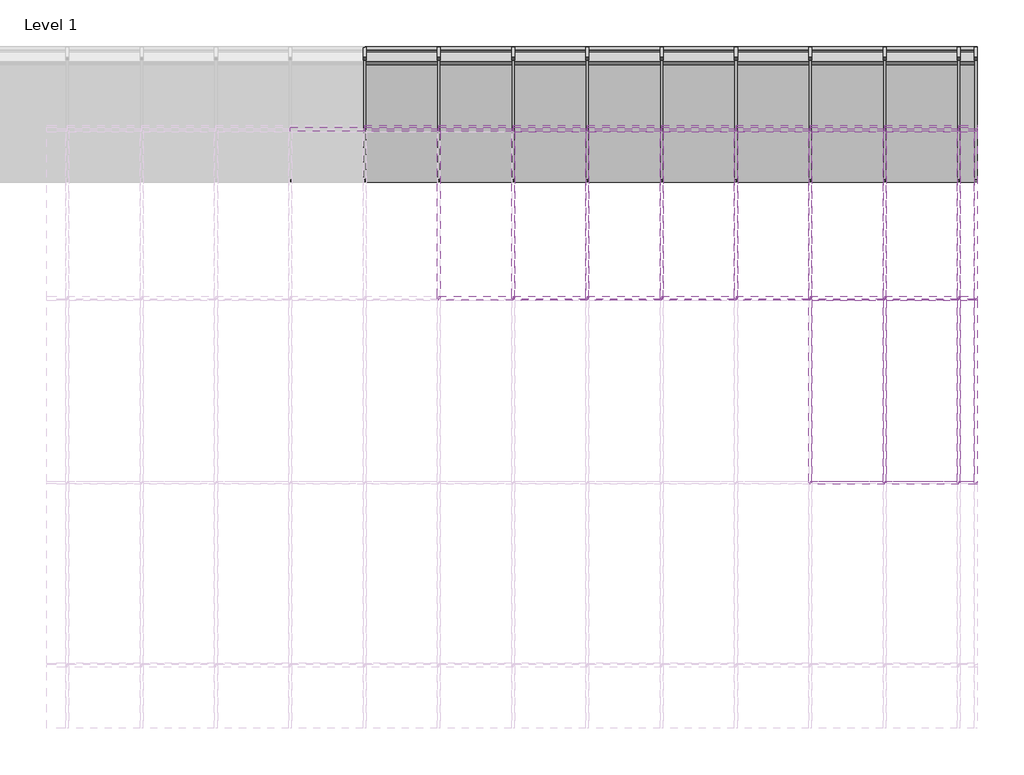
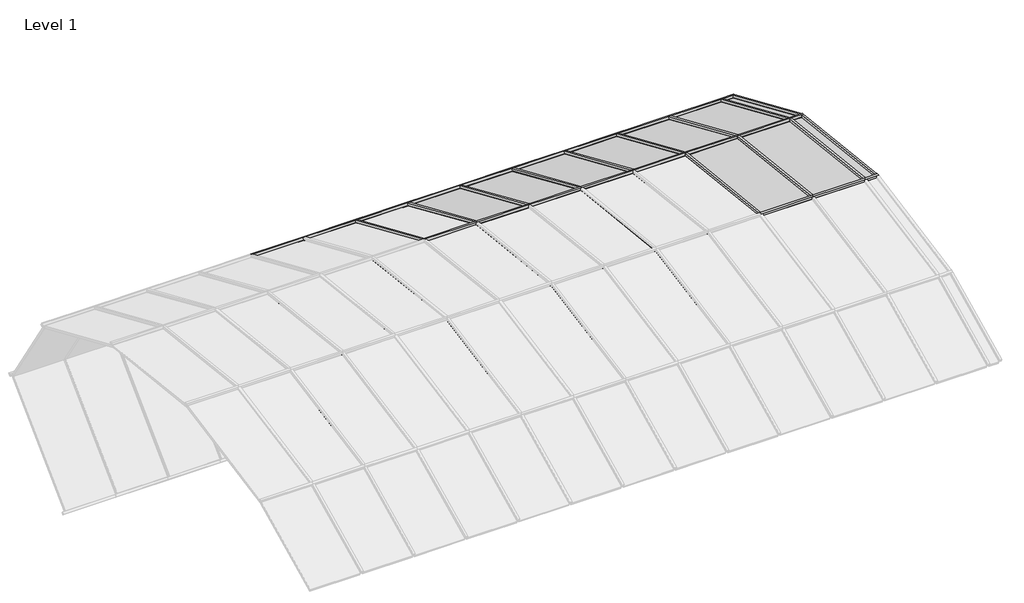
# One storey, part 22 of 23: 82 members, 28 plates.
"""IFC4 building model written with IfcOpenShell, lengths in millimetres."""

from ifc_helpers import new_model, si_unit, origin, place, context, project, spatial, transform, mapped, element, save
from components import member_68981e21, member_3e1f1dd8, member_fea202f7, member_e752087b, member_67cfadff, member_309acb9e, member_04f0a375, member_1d69e541, member_42213d33, member_0f8f75f6, member_88d46f17, member_1ddaab60, system_panel_glazed_51f493bd, system_panel_glazed_6e806f8e, system_panel_glazed_8cafdc8f, system_panel_glazed_3c61d676, system_panel_glazed_3957fabc, system_panel_glazed_e36701dd

model = new_model("IFC4")

# Units and contexts
model_context = context("Model", 3, world=origin())
ifc_project = project(units=[si_unit("LENGTHUNIT", "METRE", prefix="MILLI")], contexts=[model_context])

# Site, building, storey
site = spatial("IfcSite", under=ifc_project)
building = spatial("IfcBuilding", under=site)
storey = spatial("IfcBuildingStorey", under=building, Name="Level 1", Elevation=0.0)

# Members
placement = place(None, origin())
member_shape = member_68981e21(model_context)
element("IfcMember", 1, ObjectType="Rectangular Mullion : 1\" Square", at=placement, inside=storey, context=model_context, shape_type="MappedRepresentation", body=[
    mapped(member_shape, transform((450.2500186, 7543.2525753, 2085.6089632), x_axis=(0.0, 0.9167487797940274, -0.3994642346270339), y_axis=(0.0, 0.3994642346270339, 0.9167487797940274), z_axis=(1.0, 0.0, 0.0))),
])
element("IfcMember", 2, ObjectType="Rectangular Mullion : 1\" Square", at=placement, inside=storey, context=model_context, shape_type="MappedRepresentation", body=[
    mapped(member_shape, transform((1059.8500186, 7543.2525753, 2085.6089632), x_axis=(0.0, 0.9167487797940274, -0.3994642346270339), y_axis=(0.0, 0.3994642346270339, 0.9167487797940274), z_axis=(1.0, 0.0, 0.0))),
])
element("IfcMember", 3, ObjectType="Rectangular Mullion : 1\" Square", at=placement, inside=storey, context=model_context, shape_type="MappedRepresentation", body=[
    mapped(member_shape, transform((1669.4500186, 7543.2525753, 2085.6089632), x_axis=(0.0, 0.9167487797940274, -0.3994642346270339), y_axis=(0.0, 0.3994642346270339, 0.9167487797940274), z_axis=(1.0, 0.0, 0.0))),
])
element("IfcMember", 4, ObjectType="Rectangular Mullion : 1\" Square", at=placement, inside=storey, context=model_context, shape_type="MappedRepresentation", body=[
    mapped(member_shape, transform((2279.0500186, 7543.2525753, 2085.6089632), x_axis=(0.0, 0.9167487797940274, -0.3994642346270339), y_axis=(0.0, 0.3994642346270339, 0.9167487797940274), z_axis=(1.0, 0.0, 0.0))),
])
element("IfcMember", 5, ObjectType="Rectangular Mullion : 1\" Square", at=placement, inside=storey, context=model_context, shape_type="MappedRepresentation", body=[
    mapped(member_shape, transform((2888.6500186, 7543.2525753, 2085.6089632), x_axis=(0.0, 0.9167487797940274, -0.3994642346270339), y_axis=(0.0, 0.3994642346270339, 0.9167487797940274), z_axis=(1.0, 0.0, 0.0))),
])
element("IfcMember", 6, ObjectType="Rectangular Mullion : 1\" Square", at=placement, inside=storey, context=model_context, shape_type="MappedRepresentation", body=[
    mapped(member_shape, transform((3498.2500186, 7543.2525753, 2085.6089632), x_axis=(0.0, 0.9167487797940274, -0.3994642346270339), y_axis=(0.0, 0.3994642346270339, 0.9167487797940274), z_axis=(1.0, 0.0, 0.0))),
])
element("IfcMember", 7, ObjectType="Rectangular Mullion : 1\" Square", at=placement, inside=storey, context=model_context, shape_type="MappedRepresentation", body=[
    mapped(member_shape, transform((4107.8500186, 7543.2525753, 2085.6089632), x_axis=(0.0, 0.9167487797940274, -0.3994642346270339), y_axis=(0.0, 0.3994642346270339, 0.9167487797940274), z_axis=(1.0, 0.0, 0.0))),
])
element("IfcMember", 8, ObjectType="Rectangular Mullion : 1\" Square", at=placement, inside=storey, context=model_context, shape_type="MappedRepresentation", body=[
    mapped(member_shape, transform((4717.4500186, 7543.2525753, 2085.6089632), x_axis=(0.0, 0.9167487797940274, -0.3994642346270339), y_axis=(0.0, 0.3994642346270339, 0.9167487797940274), z_axis=(1.0, 0.0, 0.0))),
])
element("IfcMember", 9, ObjectType="Rectangular Mullion : 1\" Square", at=placement, inside=storey, context=model_context, shape_type="MappedRepresentation", body=[
    mapped(member_shape, transform((5327.0500186, 7543.2525753, 2085.6089632), x_axis=(0.0, 0.9167487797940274, -0.3994642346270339), y_axis=(0.0, 0.3994642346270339, 0.9167487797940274), z_axis=(1.0, 0.0, 0.0))),
])
element("IfcMember", 10, ObjectType="Rectangular Mullion : 1\" Square", at=placement, inside=storey, context=model_context, shape_type="MappedRepresentation", body=[
    mapped(member_shape, transform((450.2500186, 7111.8807303, 0.0), x_axis=(0.0, -0.7134126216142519, -0.7007441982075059), y_axis=(0.0, 0.7007441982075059, -0.7134126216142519), z_axis=(1.0, 0.0, 0.0))),
])
element("IfcMember", 11, ObjectType="Rectangular Mullion : 1\" Square", at=placement, inside=storey, context=model_context, shape_type="MappedRepresentation", body=[
    mapped(member_shape, transform((1059.8500186, 7111.8807303, 0.0), x_axis=(0.0, -0.7134126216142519, -0.7007441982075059), y_axis=(0.0, 0.7007441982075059, -0.7134126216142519), z_axis=(1.0, 0.0, 0.0))),
])
element("IfcMember", 12, ObjectType="Rectangular Mullion : 1\" Square", at=placement, inside=storey, context=model_context, shape_type="MappedRepresentation", body=[
    mapped(member_shape, transform((1669.4500186, 7111.8807303, 0.0), x_axis=(0.0, -0.7134126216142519, -0.7007441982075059), y_axis=(0.0, 0.7007441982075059, -0.7134126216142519), z_axis=(1.0, 0.0, 0.0))),
])
element("IfcMember", 13, ObjectType="Rectangular Mullion : 1\" Square", at=placement, inside=storey, context=model_context, shape_type="MappedRepresentation", body=[
    mapped(member_shape, transform((2279.0500186, 7111.8807303, 0.0), x_axis=(0.0, -0.7134126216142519, -0.7007441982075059), y_axis=(0.0, 0.7007441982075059, -0.7134126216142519), z_axis=(1.0, 0.0, 0.0))),
])
element("IfcMember", 14, ObjectType="Rectangular Mullion : 1\" Square", at=placement, inside=storey, context=model_context, shape_type="MappedRepresentation", body=[
    mapped(member_shape, transform((2888.6500186, 7111.8807303, 0.0), x_axis=(0.0, -0.7134126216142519, -0.7007441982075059), y_axis=(0.0, 0.7007441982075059, -0.7134126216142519), z_axis=(1.0, 0.0, 0.0))),
])
element("IfcMember", 15, ObjectType="Rectangular Mullion : 1\" Square", at=placement, inside=storey, context=model_context, shape_type="MappedRepresentation", body=[
    mapped(member_shape, transform((3498.2500186, 7111.8807303, 0.0), x_axis=(0.0, -0.7134126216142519, -0.7007441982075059), y_axis=(0.0, 0.7007441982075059, -0.7134126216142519), z_axis=(1.0, 0.0, 0.0))),
])
element("IfcMember", 16, ObjectType="Rectangular Mullion : 1\" Square", at=placement, inside=storey, context=model_context, shape_type="MappedRepresentation", body=[
    mapped(member_shape, transform((4107.8500186, 7111.8807303, 0.0), x_axis=(0.0, -0.7134126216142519, -0.7007441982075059), y_axis=(0.0, 0.7007441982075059, -0.7134126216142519), z_axis=(1.0, 0.0, 0.0))),
])
element("IfcMember", 17, ObjectType="Rectangular Mullion : 1\" Square", at=placement, inside=storey, context=model_context, shape_type="MappedRepresentation", body=[
    mapped(member_shape, transform((4717.4500186, 7111.8807303, 0.0), x_axis=(0.0, -0.7134126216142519, -0.7007441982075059), y_axis=(0.0, 0.7007441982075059, -0.7134126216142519), z_axis=(1.0, 0.0, 0.0))),
])
element("IfcMember", 18, ObjectType="Rectangular Mullion : 1\" Square", at=placement, inside=storey, context=model_context, shape_type="MappedRepresentation", body=[
    mapped(member_shape, transform((5327.0500186, 7111.8807303, 0.0), x_axis=(0.0, -0.7134126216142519, -0.7007441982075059), y_axis=(0.0, 0.7007441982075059, -0.7134126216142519), z_axis=(1.0, 0.0, 0.0))),
])
member_2_shape = member_3e1f1dd8(model_context)
element("IfcMember", 19, ObjectType="Rectangular Mullion : 1\" Square", at=placement, inside=storey, context=model_context, shape_type="MappedRepresentation", body=[
    mapped(member_2_shape, transform((4107.8500186, 4631.6132499, 2864.1651971), x_axis=(0.0, -0.9992773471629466, -0.038010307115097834), y_axis=(0.0, -0.038010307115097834, 0.9992773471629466), z_axis=(-1.0, 0.0, 0.0))),
])
element("IfcMember", 20, ObjectType="Rectangular Mullion : 1\" Square", at=placement, inside=storey, context=model_context, shape_type="MappedRepresentation", body=[
    mapped(member_2_shape, transform((4717.4500186, 4631.6132499, 2864.1651971), x_axis=(0.0, -0.9992773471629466, -0.038010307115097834), y_axis=(0.0, -0.038010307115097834, 0.9992773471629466), z_axis=(-1.0, 0.0, 0.0))),
])
member_3_shape = member_fea202f7(model_context)
element("IfcMember", 21, ObjectType="Rectangular Mullion : 1\" Square", at=placement, inside=storey, context=model_context, shape_type="MappedRepresentation", body=[
    mapped(member_3_shape, transform((5327.0500186, 4631.6132499, 2864.1651971), x_axis=(0.0, -0.9992773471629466, -0.038010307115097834), y_axis=(0.0, -0.038010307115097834, 0.9992773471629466), z_axis=(-1.0, 0.0, 0.0))),
])
element("IfcMember", 22, ObjectType="Rectangular Mullion : 1\" Square", at=placement, inside=storey, context=model_context, shape_type="MappedRepresentation", body=[
    mapped(member_shape, transform((450.2500186, 7543.2525753, 2085.6089632), x_axis=(0.0, -0.5417212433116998, 0.8405582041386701), y_axis=(0.0, 0.8405582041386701, 0.5417212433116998), z_axis=(-1.0, 0.0, 0.0))),
])
element("IfcMember", 23, ObjectType="Rectangular Mullion : 1\" Square", at=placement, inside=storey, context=model_context, shape_type="MappedRepresentation", body=[
    mapped(member_shape, transform((1059.8500186, 7543.2525753, 2085.6089632), x_axis=(0.0, -0.5417212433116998, 0.8405582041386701), y_axis=(0.0, 0.8405582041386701, 0.5417212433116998), z_axis=(-1.0, 0.0, 0.0))),
])
element("IfcMember", 24, ObjectType="Rectangular Mullion : 1\" Square", at=placement, inside=storey, context=model_context, shape_type="MappedRepresentation", body=[
    mapped(member_shape, transform((1669.4500186, 7543.2525753, 2085.6089632), x_axis=(0.0, -0.5417212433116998, 0.8405582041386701), y_axis=(0.0, 0.8405582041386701, 0.5417212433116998), z_axis=(-1.0, 0.0, 0.0))),
])
element("IfcMember", 25, ObjectType="Rectangular Mullion : 1\" Square", at=placement, inside=storey, context=model_context, shape_type="MappedRepresentation", body=[
    mapped(member_shape, transform((2279.0500186, 7543.2525753, 2085.6089632), x_axis=(0.0, -0.5417212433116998, 0.8405582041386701), y_axis=(0.0, 0.8405582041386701, 0.5417212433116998), z_axis=(-1.0, 0.0, 0.0))),
])
element("IfcMember", 26, ObjectType="Rectangular Mullion : 1\" Square", at=placement, inside=storey, context=model_context, shape_type="MappedRepresentation", body=[
    mapped(member_shape, transform((2888.6500186, 7543.2525753, 2085.6089632), x_axis=(0.0, -0.5417212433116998, 0.8405582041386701), y_axis=(0.0, 0.8405582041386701, 0.5417212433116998), z_axis=(-1.0, 0.0, 0.0))),
])
element("IfcMember", 27, ObjectType="Rectangular Mullion : 1\" Square", at=placement, inside=storey, context=model_context, shape_type="MappedRepresentation", body=[
    mapped(member_shape, transform((3498.2500186, 7543.2525753, 2085.6089632), x_axis=(0.0, -0.5417212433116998, 0.8405582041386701), y_axis=(0.0, 0.8405582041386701, 0.5417212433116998), z_axis=(-1.0, 0.0, 0.0))),
])
element("IfcMember", 28, ObjectType="Rectangular Mullion : 1\" Square", at=placement, inside=storey, context=model_context, shape_type="MappedRepresentation", body=[
    mapped(member_shape, transform((4107.8500186, 7543.2525753, 2085.6089632), x_axis=(0.0, -0.5417212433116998, 0.8405582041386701), y_axis=(0.0, 0.8405582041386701, 0.5417212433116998), z_axis=(-1.0, 0.0, 0.0))),
])
element("IfcMember", 29, ObjectType="Rectangular Mullion : 1\" Square", at=placement, inside=storey, context=model_context, shape_type="MappedRepresentation", body=[
    mapped(member_shape, transform((4717.4500186, 7543.2525753, 2085.6089632), x_axis=(0.0, -0.5417212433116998, 0.8405582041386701), y_axis=(0.0, 0.8405582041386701, 0.5417212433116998), z_axis=(-1.0, 0.0, 0.0))),
])
element("IfcMember", 30, ObjectType="Rectangular Mullion : 1\" Square", at=placement, inside=storey, context=model_context, shape_type="MappedRepresentation", body=[
    mapped(member_2_shape, transform((1059.8500186, 6146.1274349, 2694.3924567), x_axis=(0.0, -0.9660596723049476, 0.258319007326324), y_axis=(0.0, 0.258319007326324, 0.9660596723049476), z_axis=(-1.0, 0.0, 0.0))),
])
element("IfcMember", 31, ObjectType="Rectangular Mullion : 1\" Square", at=placement, inside=storey, context=model_context, shape_type="MappedRepresentation", body=[
    mapped(member_2_shape, transform((1669.4500186, 6146.1274349, 2694.3924567), x_axis=(0.0, -0.9660596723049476, 0.258319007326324), y_axis=(0.0, 0.258319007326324, 0.9660596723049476), z_axis=(-1.0, 0.0, 0.0))),
])
element("IfcMember", 32, ObjectType="Rectangular Mullion : 1\" Square", at=placement, inside=storey, context=model_context, shape_type="MappedRepresentation", body=[
    mapped(member_2_shape, transform((2279.0500186, 6146.1274349, 2694.3924567), x_axis=(0.0, -0.9660596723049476, 0.258319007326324), y_axis=(0.0, 0.258319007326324, 0.9660596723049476), z_axis=(-1.0, 0.0, 0.0))),
])
element("IfcMember", 33, ObjectType="Rectangular Mullion : 1\" Square", at=placement, inside=storey, context=model_context, shape_type="MappedRepresentation", body=[
    mapped(member_2_shape, transform((2888.6500186, 6146.1274349, 2694.3924567), x_axis=(0.0, -0.9660596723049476, 0.258319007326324), y_axis=(0.0, 0.258319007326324, 0.9660596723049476), z_axis=(-1.0, 0.0, 0.0))),
])
element("IfcMember", 34, ObjectType="Rectangular Mullion : 1\" Square", at=placement, inside=storey, context=model_context, shape_type="MappedRepresentation", body=[
    mapped(member_2_shape, transform((3498.2500186, 6146.1274349, 2694.3924567), x_axis=(0.0, -0.9660596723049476, 0.258319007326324), y_axis=(0.0, 0.258319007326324, 0.9660596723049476), z_axis=(-1.0, 0.0, 0.0))),
])
element("IfcMember", 35, ObjectType="Rectangular Mullion : 1\" Square", at=placement, inside=storey, context=model_context, shape_type="MappedRepresentation", body=[
    mapped(member_2_shape, transform((4107.8500186, 6146.1274349, 2694.3924567), x_axis=(0.0, -0.9660596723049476, 0.258319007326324), y_axis=(0.0, 0.258319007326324, 0.9660596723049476), z_axis=(-1.0, 0.0, 0.0))),
])
element("IfcMember", 36, ObjectType="Rectangular Mullion : 1\" Square", at=placement, inside=storey, context=model_context, shape_type="MappedRepresentation", body=[
    mapped(member_2_shape, transform((4717.4500186, 6146.1274349, 2694.3924567), x_axis=(0.0, -0.9660596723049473, 0.25831900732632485), y_axis=(0.0, 0.25831900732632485, 0.9660596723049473), z_axis=(-1.0, 0.0, 0.0))),
])
element("IfcMember", 37, ObjectType="Rectangular Mullion : 1\" Square", at=placement, inside=storey, context=model_context, shape_type="MappedRepresentation", body=[
    mapped(member_2_shape, transform((450.2500186, 8199.1215657, 1067.9341581), x_axis=(0.0, 0.017915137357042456, 0.9998395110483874), y_axis=(0.0, 0.9998395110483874, -0.017915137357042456), z_axis=(-1.0, 0.0, 0.0))),
])
element("IfcMember", 38, ObjectType="Rectangular Mullion : 1\" Square", at=placement, inside=storey, context=model_context, shape_type="MappedRepresentation", body=[
    mapped(member_2_shape, transform((1059.8500186, 8199.1215657, 1067.9341581), x_axis=(0.0, 0.017915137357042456, 0.9998395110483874), y_axis=(0.0, 0.9998395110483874, -0.017915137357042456), z_axis=(-1.0, 0.0, 0.0))),
])
element("IfcMember", 39, ObjectType="Rectangular Mullion : 1\" Square", at=placement, inside=storey, context=model_context, shape_type="MappedRepresentation", body=[
    mapped(member_2_shape, transform((1669.4500186, 8199.1215657, 1067.9341581), x_axis=(0.0, 0.017915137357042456, 0.9998395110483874), y_axis=(0.0, 0.9998395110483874, -0.017915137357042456), z_axis=(-1.0, 0.0, 0.0))),
])
element("IfcMember", 40, ObjectType="Rectangular Mullion : 1\" Square", at=placement, inside=storey, context=model_context, shape_type="MappedRepresentation", body=[
    mapped(member_2_shape, transform((2279.0500186, 8199.1215657, 1067.9341581), x_axis=(0.0, 0.017915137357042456, 0.9998395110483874), y_axis=(0.0, 0.9998395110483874, -0.017915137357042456), z_axis=(-1.0, 0.0, 0.0))),
])
element("IfcMember", 41, ObjectType="Rectangular Mullion : 1\" Square", at=placement, inside=storey, context=model_context, shape_type="MappedRepresentation", body=[
    mapped(member_2_shape, transform((2888.6500186, 8199.1215657, 1067.9341581), x_axis=(0.0, 0.017915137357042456, 0.9998395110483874), y_axis=(0.0, 0.9998395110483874, -0.017915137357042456), z_axis=(-1.0, 0.0, 0.0))),
])
element("IfcMember", 42, ObjectType="Rectangular Mullion : 1\" Square", at=placement, inside=storey, context=model_context, shape_type="MappedRepresentation", body=[
    mapped(member_2_shape, transform((3498.2500186, 8199.1215657, 1067.9341581), x_axis=(0.0, 0.017915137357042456, 0.9998395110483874), y_axis=(0.0, 0.9998395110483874, -0.017915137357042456), z_axis=(-1.0, 0.0, 0.0))),
])
element("IfcMember", 43, ObjectType="Rectangular Mullion : 1\" Square", at=placement, inside=storey, context=model_context, shape_type="MappedRepresentation", body=[
    mapped(member_2_shape, transform((4107.8500186, 8199.1215657, 1067.9341581), x_axis=(0.0, 0.0179151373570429, 0.9998395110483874), y_axis=(0.0, 0.9998395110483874, -0.0179151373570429), z_axis=(-1.0, 0.0, 0.0))),
])
element("IfcMember", 44, ObjectType="Rectangular Mullion : 1\" Square", at=placement, inside=storey, context=model_context, shape_type="MappedRepresentation", body=[
    mapped(member_2_shape, transform((4717.4500186, 8199.1215657, 1067.9341581), x_axis=(0.0, 0.017915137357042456, 0.9998395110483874), y_axis=(0.0, 0.9998395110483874, -0.017915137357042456), z_axis=(-1.0, 0.0, 0.0))),
])
element("IfcMember", 45, ObjectType="Rectangular Mullion : 1\" Square", at=placement, inside=storey, context=model_context, shape_type="MappedRepresentation", body=[
    mapped(member_3_shape, transform((5327.0500186, 6146.1274349, 2694.3924567), x_axis=(0.0, -0.9660596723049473, 0.25831900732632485), y_axis=(0.0, 0.25831900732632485, 0.9660596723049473), z_axis=(-1.0, 0.0, 0.0))),
])
element("IfcMember", 46, ObjectType="Rectangular Mullion : 1\" Square", at=placement, inside=storey, context=model_context, shape_type="MappedRepresentation", body=[
    mapped(member_3_shape, transform((5327.0500186, 8199.1215657, 1067.9341581), x_axis=(0.0, 0.017915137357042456, 0.9998395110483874), y_axis=(0.0, 0.9998395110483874, -0.017915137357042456), z_axis=(-1.0, 0.0, 0.0))),
])
member_4_shape = member_e752087b(model_context)
element("IfcMember", 47, ObjectType="Rectangular Mullion : 1\" Square", at=placement, inside=storey, context=model_context, shape_type="MappedRepresentation", body=[
    mapped(member_4_shape, transform((5479.4500186, 7543.2525753, 2085.6089632), x_axis=(0.0, 0.9167487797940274, -0.3994642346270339), y_axis=(0.0, 0.3994642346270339, 0.9167487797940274), z_axis=(1.0, 0.0, 0.0))),
])
element("IfcMember", 48, ObjectType="Rectangular Mullion : 1\" Square", at=placement, inside=storey, context=model_context, shape_type="MappedRepresentation", body=[
    mapped(member_4_shape, transform((5479.4500186, 7111.8807303, 0.0), x_axis=(0.0, -0.7134126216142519, -0.7007441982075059), y_axis=(0.0, 0.7007441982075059, -0.7134126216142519), z_axis=(1.0, 0.0, 0.0))),
])
element("IfcMember", 49, ObjectType="Rectangular Mullion : 1\" Square", at=placement, inside=storey, context=model_context, shape_type="MappedRepresentation", body=[
    mapped(member_4_shape, transform((5327.0500186, 7543.2525753, 2085.6089632), x_axis=(0.0, -0.5417212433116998, 0.8405582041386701), y_axis=(0.0, 0.8405582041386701, 0.5417212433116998), z_axis=(-1.0, 0.0, 0.0))),
])
member_5_shape = member_67cfadff(model_context)
element("IfcMember", 50, ObjectType="Rectangular Mullion : 1\" Square", at=placement, inside=storey, context=model_context, shape_type="MappedRepresentation", body=[
    mapped(member_5_shape, transform((1059.8500186, 6157.7701444, 2689.3192609), x_axis=(1.0, 0.0, 0.0), y_axis=(0.0, 0.39946423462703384, 0.9167487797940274), z_axis=(0.0, -0.9167487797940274, 0.39946423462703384))),
])
element("IfcMember", 51, ObjectType="Rectangular Mullion : 1\" Square", at=placement, inside=storey, context=model_context, shape_type="MappedRepresentation", body=[
    mapped(member_5_shape, transform((1669.4500186, 6157.7701444, 2689.3192609), x_axis=(1.0, 0.0, 0.0), y_axis=(0.0, 0.39946423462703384, 0.9167487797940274), z_axis=(0.0, -0.9167487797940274, 0.39946423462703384))),
])
element("IfcMember", 52, ObjectType="Rectangular Mullion : 1\" Square", at=placement, inside=storey, context=model_context, shape_type="MappedRepresentation", body=[
    mapped(member_5_shape, transform((2279.0500186, 6157.7701444, 2689.3192609), x_axis=(1.0, 0.0, 0.0), y_axis=(0.0, 0.39946423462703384, 0.9167487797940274), z_axis=(0.0, -0.9167487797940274, 0.39946423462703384))),
])
element("IfcMember", 53, ObjectType="Rectangular Mullion : 1\" Square", at=placement, inside=storey, context=model_context, shape_type="MappedRepresentation", body=[
    mapped(member_5_shape, transform((2888.6500186, 6157.7701444, 2689.3192609), x_axis=(1.0, 0.0, 0.0), y_axis=(0.0, 0.39946423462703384, 0.9167487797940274), z_axis=(0.0, -0.9167487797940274, 0.39946423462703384))),
])
element("IfcMember", 54, ObjectType="Rectangular Mullion : 1\" Square", at=placement, inside=storey, context=model_context, shape_type="MappedRepresentation", body=[
    mapped(member_5_shape, transform((3498.2500186, 6157.7701444, 2689.3192609), x_axis=(1.0, 0.0, 0.0), y_axis=(0.0, 0.39946423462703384, 0.9167487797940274), z_axis=(0.0, -0.9167487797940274, 0.39946423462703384))),
])
element("IfcMember", 55, ObjectType="Rectangular Mullion : 1\" Square", at=placement, inside=storey, context=model_context, shape_type="MappedRepresentation", body=[
    mapped(member_5_shape, transform((4107.8500186, 6157.7701444, 2689.3192609), x_axis=(1.0, 0.0, 0.0), y_axis=(0.0, 0.39946423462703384, 0.9167487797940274), z_axis=(0.0, -0.9167487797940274, 0.39946423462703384))),
])
element("IfcMember", 56, ObjectType="Rectangular Mullion : 1\" Square", at=placement, inside=storey, context=model_context, shape_type="MappedRepresentation", body=[
    mapped(member_5_shape, transform((4717.4500186, 6157.7701444, 2689.3192609), x_axis=(1.0, 0.0, 0.0), y_axis=(0.0, 0.39946423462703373, 0.9167487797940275), z_axis=(0.0, -0.9167487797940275, 0.39946423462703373))),
])
member_6_shape = member_309acb9e(model_context)
element("IfcMember", 57, ObjectType="Rectangular Mullion : 1\" Square", at=placement, inside=storey, context=model_context, shape_type="MappedRepresentation", body=[
    mapped(member_6_shape, transform((4107.8500186, 4644.2342014, 2862.7504243), x_axis=(1.0, 0.0, 0.0), y_axis=(0.0, 0.11139943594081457, 0.9937757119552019), z_axis=(0.0, -0.9937757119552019, 0.11139943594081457))),
])
element("IfcMember", 58, ObjectType="Rectangular Mullion : 1\" Square", at=placement, inside=storey, context=model_context, shape_type="MappedRepresentation", body=[
    mapped(member_6_shape, transform((4717.4500186, 4644.2342014, 2862.7504243), x_axis=(1.0, 0.0, 0.0), y_axis=(0.0, 0.1113994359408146, 0.9937757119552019), z_axis=(0.0, -0.9937757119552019, 0.1113994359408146))),
])
element("IfcMember", 59, ObjectType="Rectangular Mullion : 1\" Square", at=placement, inside=storey, context=model_context, shape_type="MappedRepresentation", body=[
    mapped(member_5_shape, transform((5327.0500186, 6157.7701444, 2689.3192609), x_axis=(1.0, 0.0, 0.0), y_axis=(0.0, 0.39946423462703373, 0.9167487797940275), z_axis=(0.0, -0.9167487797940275, 0.39946423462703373))),
])
element("IfcMember", 60, ObjectType="Rectangular Mullion : 1\" Square", at=placement, inside=storey, context=model_context, shape_type="MappedRepresentation", body=[
    mapped(member_6_shape, transform((5327.0500186, 4644.2342014, 2862.7504243), x_axis=(1.0, 0.0, 0.0), y_axis=(0.0, 0.1113994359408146, 0.9937757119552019), z_axis=(0.0, -0.9937757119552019, 0.1113994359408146))),
])
member_7_shape = member_04f0a375(model_context)
element("IfcMember", 61, ObjectType="Rectangular Mullion : 1\" Square", at=placement, inside=storey, context=model_context, shape_type="MappedRepresentation", body=[
    mapped(member_7_shape, transform((5479.4500186, 6157.7701444, 2689.3192609), x_axis=(1.0, 0.0, 0.0), y_axis=(0.0, 0.39946423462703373, 0.9167487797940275), z_axis=(0.0, -0.9167487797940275, 0.39946423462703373))),
])
member_8_shape = member_1d69e541(model_context)
element("IfcMember", 62, ObjectType="Rectangular Mullion : 1\" Square", at=placement, inside=storey, context=model_context, shape_type="MappedRepresentation", body=[
    mapped(member_8_shape, transform((5479.4500186, 4644.2342014, 2862.7504243), x_axis=(1.0, 0.0, 0.0), y_axis=(0.0, 0.1113994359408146, 0.9937757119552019), z_axis=(0.0, -0.9937757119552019, 0.1113994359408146))),
])
member_9_shape = member_42213d33(model_context)
element("IfcMember", 63, ObjectType="Rectangular Mullion : 1\" Square", at=placement, inside=storey, context=model_context, shape_type="MappedRepresentation", body=[
    mapped(member_9_shape, transform((3498.2500186, 8190.0612254, 1059.0347068), x_axis=(1.0, 0.0, 0.0), y_axis=(0.0, 0.7007441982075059, -0.713412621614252), z_axis=(0.0, 0.7134126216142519, 0.7007441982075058))),
])
element("IfcMember", 64, ObjectType="Rectangular Mullion : 1\" Square", at=placement, inside=storey, context=model_context, shape_type="MappedRepresentation", body=[
    mapped(member_9_shape, transform((4107.8500186, 8190.0612254, 1059.0347068), x_axis=(1.0, 0.0, 0.0), y_axis=(0.0, 0.700744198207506, -0.7134126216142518), z_axis=(0.0, 0.7134126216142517, 0.7007441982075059))),
])
element("IfcMember", 65, ObjectType="Rectangular Mullion : 1\" Square", at=placement, inside=storey, context=model_context, shape_type="MappedRepresentation", body=[
    mapped(member_9_shape, transform((4717.4500186, 8190.0612254, 1059.0347068), x_axis=(1.0, 0.0, 0.0), y_axis=(0.0, 0.7007441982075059, -0.713412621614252), z_axis=(0.0, 0.7134126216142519, 0.7007441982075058))),
])
element("IfcMember", 66, ObjectType="Rectangular Mullion : 1\" Square", at=placement, inside=storey, context=model_context, shape_type="MappedRepresentation", body=[
    mapped(member_9_shape, transform((450.2500186, 8190.0612254, 1059.0347068), x_axis=(1.0, 0.0, 0.0), y_axis=(0.0, 0.7007441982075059, -0.7134126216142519), z_axis=(0.0, 0.7134126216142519, 0.7007441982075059))),
])
element("IfcMember", 67, ObjectType="Rectangular Mullion : 1\" Square", at=placement, inside=storey, context=model_context, shape_type="MappedRepresentation", body=[
    mapped(member_9_shape, transform((1059.8500186, 8190.0612254, 1059.0347068), x_axis=(1.0, 0.0, 0.0), y_axis=(0.0, 0.7007441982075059, -0.7134126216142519), z_axis=(0.0, 0.7134126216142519, 0.7007441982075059))),
])
element("IfcMember", 68, ObjectType="Rectangular Mullion : 1\" Square", at=placement, inside=storey, context=model_context, shape_type="MappedRepresentation", body=[
    mapped(member_9_shape, transform((1669.4500186, 8190.0612254, 1059.0347068), x_axis=(1.0, 0.0, 0.0), y_axis=(0.0, 0.7007441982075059, -0.713412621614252), z_axis=(0.0, 0.7134126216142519, 0.7007441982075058))),
])
element("IfcMember", 69, ObjectType="Rectangular Mullion : 1\" Square", at=placement, inside=storey, context=model_context, shape_type="MappedRepresentation", body=[
    mapped(member_9_shape, transform((2279.0500186, 8190.0612254, 1059.0347068), x_axis=(1.0, 0.0, 0.0), y_axis=(0.0, 0.7007441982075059, -0.713412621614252), z_axis=(0.0, 0.7134126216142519, 0.7007441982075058))),
])
element("IfcMember", 70, ObjectType="Rectangular Mullion : 1\" Square", at=placement, inside=storey, context=model_context, shape_type="MappedRepresentation", body=[
    mapped(member_9_shape, transform((2888.6500186, 8190.0612254, 1059.0347068), x_axis=(1.0, 0.0, 0.0), y_axis=(0.0, 0.7007441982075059, -0.713412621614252), z_axis=(0.0, 0.7134126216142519, 0.7007441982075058))),
])
member_10_shape = member_0f8f75f6(model_context)
element("IfcMember", 71, ObjectType="Rectangular Mullion : 1\" Square", at=placement, inside=storey, context=model_context, shape_type="MappedRepresentation", body=[
    mapped(member_10_shape, transform((3498.2500186, 7557.0122949, 2064.2587848), x_axis=(1.0, 0.0, 0.0), y_axis=(0.0, 0.8405582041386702, 0.5417212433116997), z_axis=(0.0, -0.5417212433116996, 0.8405582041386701))),
])
element("IfcMember", 72, ObjectType="Rectangular Mullion : 1\" Square", at=placement, inside=storey, context=model_context, shape_type="MappedRepresentation", body=[
    mapped(member_10_shape, transform((4107.8500186, 7557.0122949, 2064.2587848), x_axis=(1.0, 0.0, 0.0), y_axis=(0.0, 0.8405582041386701, 0.5417212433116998), z_axis=(0.0, -0.5417212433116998, 0.8405582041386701))),
])
element("IfcMember", 73, ObjectType="Rectangular Mullion : 1\" Square", at=placement, inside=storey, context=model_context, shape_type="MappedRepresentation", body=[
    mapped(member_10_shape, transform((4717.4500186, 7557.0122949, 2064.2587848), x_axis=(1.0, 0.0, 0.0), y_axis=(0.0, 0.8405582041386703, 0.5417212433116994), z_axis=(0.0, -0.5417212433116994, 0.8405582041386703))),
])
element("IfcMember", 74, ObjectType="Rectangular Mullion : 1\" Square", at=placement, inside=storey, context=model_context, shape_type="MappedRepresentation", body=[
    mapped(member_10_shape, transform((450.2500186, 7557.0122949, 2064.2587848), x_axis=(1.0, 0.0, 0.0), y_axis=(0.0, 0.8405582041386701, 0.5417212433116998), z_axis=(0.0, -0.5417212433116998, 0.8405582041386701))),
])
element("IfcMember", 75, ObjectType="Rectangular Mullion : 1\" Square", at=placement, inside=storey, context=model_context, shape_type="MappedRepresentation", body=[
    mapped(member_10_shape, transform((1059.8500186, 7557.0122949, 2064.2587848), x_axis=(1.0, 0.0, 0.0), y_axis=(0.0, 0.8405582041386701, 0.5417212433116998), z_axis=(0.0, -0.5417212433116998, 0.8405582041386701))),
])
element("IfcMember", 76, ObjectType="Rectangular Mullion : 1\" Square", at=placement, inside=storey, context=model_context, shape_type="MappedRepresentation", body=[
    mapped(member_10_shape, transform((1669.4500186, 7557.0122949, 2064.2587848), x_axis=(1.0, 0.0, 0.0), y_axis=(0.0, 0.8405582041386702, 0.5417212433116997), z_axis=(0.0, -0.5417212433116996, 0.8405582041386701))),
])
element("IfcMember", 77, ObjectType="Rectangular Mullion : 1\" Square", at=placement, inside=storey, context=model_context, shape_type="MappedRepresentation", body=[
    mapped(member_10_shape, transform((2279.0500186, 7557.0122949, 2064.2587848), x_axis=(1.0, 0.0, 0.0), y_axis=(0.0, 0.8405582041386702, 0.5417212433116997), z_axis=(0.0, -0.5417212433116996, 0.8405582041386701))),
])
element("IfcMember", 78, ObjectType="Rectangular Mullion : 1\" Square", at=placement, inside=storey, context=model_context, shape_type="MappedRepresentation", body=[
    mapped(member_10_shape, transform((2888.6500186, 7557.0122949, 2064.2587848), x_axis=(1.0, 0.0, 0.0), y_axis=(0.0, 0.8405582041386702, 0.5417212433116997), z_axis=(0.0, -0.5417212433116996, 0.8405582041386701))),
])
element("IfcMember", 79, ObjectType="Rectangular Mullion : 1\" Square", at=placement, inside=storey, context=model_context, shape_type="MappedRepresentation", body=[
    mapped(member_9_shape, transform((5327.0500186, 8190.0612254, 1059.0347068), x_axis=(1.0, 0.0, 0.0), y_axis=(0.0, 0.7007441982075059, -0.713412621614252), z_axis=(0.0, 0.7134126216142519, 0.7007441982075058))),
])
element("IfcMember", 80, ObjectType="Rectangular Mullion : 1\" Square", at=placement, inside=storey, context=model_context, shape_type="MappedRepresentation", body=[
    mapped(member_10_shape, transform((5327.0500186, 7557.0122949, 2064.2587848), x_axis=(1.0, 0.0, 0.0), y_axis=(0.0, 0.8405582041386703, 0.5417212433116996), z_axis=(0.0, -0.5417212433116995, 0.8405582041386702))),
])
member_11_shape = member_88d46f17(model_context)
element("IfcMember", 81, ObjectType="Rectangular Mullion : 1\" Square", at=placement, inside=storey, context=model_context, shape_type="MappedRepresentation", body=[
    mapped(member_11_shape, transform((5479.4500186, 8190.0612254, 1059.0347068), x_axis=(1.0, 0.0, 0.0), y_axis=(0.0, 0.7007441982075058, -0.713412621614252), z_axis=(0.0, 0.713412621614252, 0.7007441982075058))),
])
member_12_shape = member_1ddaab60(model_context)
element("IfcMember", 82, ObjectType="Rectangular Mullion : 1\" Square", at=placement, inside=storey, context=model_context, shape_type="MappedRepresentation", body=[
    mapped(member_12_shape, transform((5479.4500186, 7557.0122949, 2064.2587848), x_axis=(1.0, 0.0, 0.0), y_axis=(0.0, 0.8405582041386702, 0.5417212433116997), z_axis=(0.0, -0.5417212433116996, 0.8405582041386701))),
])

# Plates
system_panel_glazed_shape = system_panel_glazed_51f493bd(model_context)
element("IfcPlate", 83, ObjectType="System Panel : Glazed", at=placement, inside=storey, context=model_context, shape_type="MappedRepresentation", body=[
    mapped(system_panel_glazed_shape, transform((1682.1500186, 6838.8686503, 2392.5373078), x_axis=(0.0, -0.9167487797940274, 0.3994642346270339), y_axis=(0.0, -0.3994642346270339, -0.9167487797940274), z_axis=(1.0, 0.0, 0.0))),
])
element("IfcPlate", 84, ObjectType="System Panel : Glazed", at=placement, inside=storey, context=model_context, shape_type="MappedRepresentation", body=[
    mapped(system_panel_glazed_shape, transform((2291.7500186, 6838.8686503, 2392.5373078), x_axis=(0.0, -0.9167487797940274, 0.3994642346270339), y_axis=(0.0, -0.3994642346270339, -0.9167487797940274), z_axis=(1.0, 0.0, 0.0))),
])
element("IfcPlate", 85, ObjectType="System Panel : Glazed", at=placement, inside=storey, context=model_context, shape_type="MappedRepresentation", body=[
    mapped(system_panel_glazed_shape, transform((2901.3500186, 6838.8686503, 2392.5373078), x_axis=(0.0, -0.9167487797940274, 0.3994642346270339), y_axis=(0.0, -0.3994642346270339, -0.9167487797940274), z_axis=(1.0, 0.0, 0.0))),
])
element("IfcPlate", 86, ObjectType="System Panel : Glazed", at=placement, inside=storey, context=model_context, shape_type="MappedRepresentation", body=[
    mapped(system_panel_glazed_shape, transform((3510.9500186, 6838.8686503, 2392.5373078), x_axis=(0.0, -0.9167487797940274, 0.3994642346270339), y_axis=(0.0, -0.3994642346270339, -0.9167487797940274), z_axis=(1.0, 0.0, 0.0))),
])
element("IfcPlate", 87, ObjectType="System Panel : Glazed", at=placement, inside=storey, context=model_context, shape_type="MappedRepresentation", body=[
    mapped(system_panel_glazed_shape, transform((4120.5500186, 6838.8686503, 2392.5373078), x_axis=(0.0, -0.9167487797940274, 0.3994642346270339), y_axis=(0.0, -0.3994642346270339, -0.9167487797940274), z_axis=(1.0, 0.0, 0.0))),
])
element("IfcPlate", 88, ObjectType="System Panel : Glazed", at=placement, inside=storey, context=model_context, shape_type="MappedRepresentation", body=[
    mapped(system_panel_glazed_shape, transform((4730.1500186, 6838.8686503, 2392.5373078), x_axis=(0.0, -0.9167487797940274, 0.3994642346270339), y_axis=(0.0, -0.3994642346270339, -0.9167487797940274), z_axis=(1.0, 0.0, 0.0))),
])
element("IfcPlate", 89, ObjectType="System Panel : Glazed", at=placement, inside=storey, context=model_context, shape_type="MappedRepresentation", body=[
    mapped(system_panel_glazed_shape, transform((462.9500186, 7660.0313181, 538.4168047), x_axis=(0.0, 0.7134126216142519, 0.7007441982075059), y_axis=(0.0, -0.7007441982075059, 0.7134126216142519), z_axis=(1.0, 0.0, 0.0))),
])
element("IfcPlate", 90, ObjectType="System Panel : Glazed", at=placement, inside=storey, context=model_context, shape_type="MappedRepresentation", body=[
    mapped(system_panel_glazed_shape, transform((1072.5500186, 7660.0313181, 538.4168047), x_axis=(0.0, 0.7134126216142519, 0.7007441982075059), y_axis=(0.0, -0.7007441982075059, 0.7134126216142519), z_axis=(1.0, 0.0, 0.0))),
])
element("IfcPlate", 91, ObjectType="System Panel : Glazed", at=placement, inside=storey, context=model_context, shape_type="MappedRepresentation", body=[
    mapped(system_panel_glazed_shape, transform((1682.1500186, 7660.0313181, 538.4168047), x_axis=(0.0, 0.7134126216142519, 0.7007441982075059), y_axis=(0.0, -0.7007441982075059, 0.7134126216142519), z_axis=(1.0, 0.0, 0.0))),
])
element("IfcPlate", 92, ObjectType="System Panel : Glazed", at=placement, inside=storey, context=model_context, shape_type="MappedRepresentation", body=[
    mapped(system_panel_glazed_shape, transform((2291.7500186, 7660.0313181, 538.4168047), x_axis=(0.0, 0.7134126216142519, 0.7007441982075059), y_axis=(0.0, -0.7007441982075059, 0.7134126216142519), z_axis=(1.0, 0.0, 0.0))),
])
element("IfcPlate", 93, ObjectType="System Panel : Glazed", at=placement, inside=storey, context=model_context, shape_type="MappedRepresentation", body=[
    mapped(system_panel_glazed_shape, transform((2901.3500186, 7660.0313181, 538.4168047), x_axis=(0.0, 0.7134126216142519, 0.7007441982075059), y_axis=(0.0, -0.7007441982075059, 0.7134126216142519), z_axis=(1.0, 0.0, 0.0))),
])
element("IfcPlate", 94, ObjectType="System Panel : Glazed", at=placement, inside=storey, context=model_context, shape_type="MappedRepresentation", body=[
    mapped(system_panel_glazed_shape, transform((3510.9500186, 7660.0313181, 538.4168047), x_axis=(0.0, 0.7134126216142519, 0.7007441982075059), y_axis=(0.0, -0.7007441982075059, 0.7134126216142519), z_axis=(1.0, 0.0, 0.0))),
])
element("IfcPlate", 95, ObjectType="System Panel : Glazed", at=placement, inside=storey, context=model_context, shape_type="MappedRepresentation", body=[
    mapped(system_panel_glazed_shape, transform((4120.5500186, 7660.0313181, 538.4168047), x_axis=(0.0, 0.7134126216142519, 0.7007441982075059), y_axis=(0.0, -0.7007441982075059, 0.7134126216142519), z_axis=(1.0, 0.0, 0.0))),
])
element("IfcPlate", 96, ObjectType="System Panel : Glazed", at=placement, inside=storey, context=model_context, shape_type="MappedRepresentation", body=[
    mapped(system_panel_glazed_shape, transform((4730.1500186, 7660.0313181, 538.4168047), x_axis=(0.0, 0.7134126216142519, 0.7007441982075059), y_axis=(0.0, -0.7007441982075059, 0.7134126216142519), z_axis=(1.0, 0.0, 0.0))),
])
system_panel_glazed_2_shape = system_panel_glazed_6e806f8e(model_context)
element("IfcPlate", 97, ObjectType="System Panel : Glazed", at=placement, inside=storey, context=model_context, shape_type="MappedRepresentation", body=[
    mapped(system_panel_glazed_2_shape, transform((4120.5500186, 5388.8703424, 2779.2788269), x_axis=(0.0, -0.9937757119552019, 0.11139943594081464), y_axis=(0.0, -0.11139943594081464, -0.9937757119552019), z_axis=(1.0, 0.0, 0.0))),
])
element("IfcPlate", 98, ObjectType="System Panel : Glazed", at=placement, inside=storey, context=model_context, shape_type="MappedRepresentation", body=[
    mapped(system_panel_glazed_2_shape, transform((4730.1500186, 5388.8703424, 2779.2788269), x_axis=(0.0, -0.9937757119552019, 0.11139943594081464), y_axis=(0.0, -0.11139943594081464, -0.9937757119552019), z_axis=(1.0, 0.0, 0.0))),
])
system_panel_glazed_3_shape = system_panel_glazed_8cafdc8f(model_context)
element("IfcPlate", 99, ObjectType="System Panel : Glazed", at=placement, inside=storey, context=model_context, shape_type="MappedRepresentation", body=[
    mapped(system_panel_glazed_3_shape, transform((5339.7500186, 6838.8686503, 2392.5373078), x_axis=(0.0, -0.9167487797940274, 0.3994642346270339), y_axis=(0.0, -0.3994642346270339, -0.9167487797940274), z_axis=(1.0, 0.0, 0.0))),
])
element("IfcPlate", 100, ObjectType="System Panel : Glazed", at=placement, inside=storey, context=model_context, shape_type="MappedRepresentation", body=[
    mapped(system_panel_glazed_3_shape, transform((5339.7500186, 7660.0313181, 538.4168047), x_axis=(0.0, 0.7134126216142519, 0.7007441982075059), y_axis=(0.0, -0.7007441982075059, 0.7134126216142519), z_axis=(1.0, 0.0, 0.0))),
])
system_panel_glazed_4_shape = system_panel_glazed_3c61d676(model_context)
element("IfcPlate", 101, ObjectType="System Panel : Glazed", at=placement, inside=storey, context=model_context, shape_type="MappedRepresentation", body=[
    mapped(system_panel_glazed_4_shape, transform((5339.7500186, 5388.8703424, 2779.2788269), x_axis=(0.0, -0.9937757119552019, 0.11139943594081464), y_axis=(0.0, -0.11139943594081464, -0.9937757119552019), z_axis=(1.0, 0.0, 0.0))),
])
system_panel_glazed_5_shape = system_panel_glazed_3957fabc(model_context)
element("IfcPlate", 102, ObjectType="System Panel : Glazed", at=placement, inside=storey, context=model_context, shape_type="MappedRepresentation", body=[
    mapped(system_panel_glazed_5_shape, transform((462.9500186, 7874.6270004, 1571.434016), x_axis=(0.0, -0.5417212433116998, 0.8405582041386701), y_axis=(0.0, -0.8405582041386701, -0.5417212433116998), z_axis=(1.0, 0.0, 0.0))),
])
element("IfcPlate", 103, ObjectType="System Panel : Glazed", at=placement, inside=storey, context=model_context, shape_type="MappedRepresentation", body=[
    mapped(system_panel_glazed_5_shape, transform((1072.5500186, 7874.6270004, 1571.434016), x_axis=(0.0, -0.5417212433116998, 0.8405582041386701), y_axis=(0.0, -0.8405582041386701, -0.5417212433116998), z_axis=(1.0, 0.0, 0.0))),
])
element("IfcPlate", 104, ObjectType="System Panel : Glazed", at=placement, inside=storey, context=model_context, shape_type="MappedRepresentation", body=[
    mapped(system_panel_glazed_5_shape, transform((1682.1500186, 7874.6270004, 1571.434016), x_axis=(0.0, -0.5417212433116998, 0.8405582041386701), y_axis=(0.0, -0.8405582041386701, -0.5417212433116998), z_axis=(1.0, 0.0, 0.0))),
])
element("IfcPlate", 105, ObjectType="System Panel : Glazed", at=placement, inside=storey, context=model_context, shape_type="MappedRepresentation", body=[
    mapped(system_panel_glazed_5_shape, transform((2291.7500186, 7874.6270004, 1571.434016), x_axis=(0.0, -0.5417212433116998, 0.8405582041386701), y_axis=(0.0, -0.8405582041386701, -0.5417212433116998), z_axis=(1.0, 0.0, 0.0))),
])
element("IfcPlate", 106, ObjectType="System Panel : Glazed", at=placement, inside=storey, context=model_context, shape_type="MappedRepresentation", body=[
    mapped(system_panel_glazed_5_shape, transform((2901.3500186, 7874.6270004, 1571.434016), x_axis=(0.0, -0.5417212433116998, 0.8405582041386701), y_axis=(0.0, -0.8405582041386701, -0.5417212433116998), z_axis=(1.0, 0.0, 0.0))),
])
element("IfcPlate", 107, ObjectType="System Panel : Glazed", at=placement, inside=storey, context=model_context, shape_type="MappedRepresentation", body=[
    mapped(system_panel_glazed_5_shape, transform((3510.9500186, 7874.6270004, 1571.434016), x_axis=(0.0, -0.5417212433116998, 0.8405582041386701), y_axis=(0.0, -0.8405582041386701, -0.5417212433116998), z_axis=(1.0, 0.0, 0.0))),
])
element("IfcPlate", 108, ObjectType="System Panel : Glazed", at=placement, inside=storey, context=model_context, shape_type="MappedRepresentation", body=[
    mapped(system_panel_glazed_5_shape, transform((4120.5500186, 7874.6270004, 1571.434016), x_axis=(0.0, -0.5417212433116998, 0.8405582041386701), y_axis=(0.0, -0.8405582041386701, -0.5417212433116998), z_axis=(1.0, 0.0, 0.0))),
])
element("IfcPlate", 109, ObjectType="System Panel : Glazed", at=placement, inside=storey, context=model_context, shape_type="MappedRepresentation", body=[
    mapped(system_panel_glazed_5_shape, transform((4730.1500186, 7874.6270004, 1571.434016), x_axis=(0.0, -0.5417212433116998, 0.8405582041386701), y_axis=(0.0, -0.8405582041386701, -0.5417212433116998), z_axis=(1.0, 0.0, 0.0))),
])
system_panel_glazed_6_shape = system_panel_glazed_e36701dd(model_context)
element("IfcPlate", 110, ObjectType="System Panel : Glazed", at=placement, inside=storey, context=model_context, shape_type="MappedRepresentation", body=[
    mapped(system_panel_glazed_6_shape, transform((5339.7500186, 7874.6270004, 1571.434016), x_axis=(0.0, -0.5417212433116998, 0.8405582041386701), y_axis=(0.0, -0.8405582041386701, -0.5417212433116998), z_axis=(1.0, 0.0, 0.0))),
])

save(model, "model.ifc")
